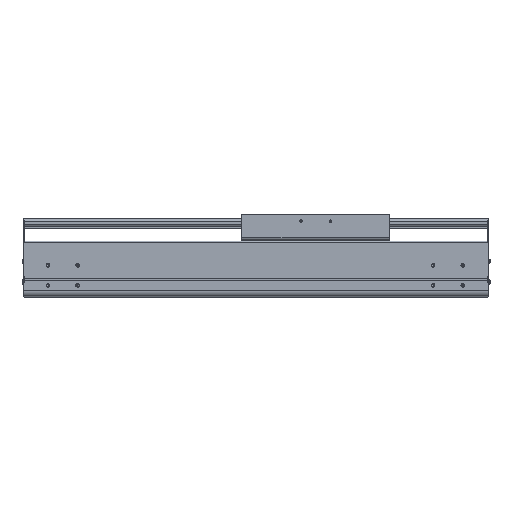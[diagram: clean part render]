
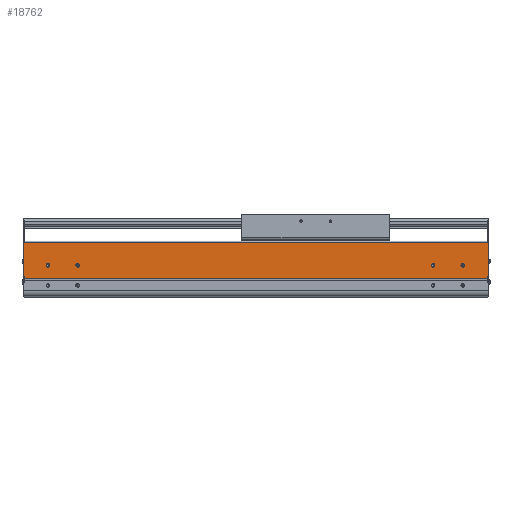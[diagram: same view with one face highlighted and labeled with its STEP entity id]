
A CAD part, top view. The second image highlights one B-rep face of the part: STEP entity #18762.
In plain terms, the highlighted planar face has unit normal (0, 0, 1).
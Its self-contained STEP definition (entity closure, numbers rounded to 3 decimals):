
#4702=DIRECTION('',(-1.,0.,0.));
#4703=VECTOR('',#4702,788.);
#4704=CARTESIAN_POINT('',(2.,93.5,107.));
#4705=LINE('',#4704,#4703);
#4728=CARTESIAN_POINT('',(-42.,54.,107.));
#4729=DIRECTION('',(0.,0.,-1.));
#4730=DIRECTION('',(1.,0.,0.));
#4731=AXIS2_PLACEMENT_3D('',#4728,#4729,#4730);
#4733=CARTESIAN_POINT('',(-42.,54.,107.));
#4734=DIRECTION('',(0.,0.,-1.));
#4735=DIRECTION('',(-1.,0.,0.));
#4736=AXIS2_PLACEMENT_3D('',#4733,#4734,#4735);
#4738=CARTESIAN_POINT('',(-92.,54.,107.));
#4739=DIRECTION('',(0.,0.,-1.));
#4740=DIRECTION('',(1.,0.,0.));
#4741=AXIS2_PLACEMENT_3D('',#4738,#4739,#4740);
#4743=CARTESIAN_POINT('',(-92.,54.,107.));
#4744=DIRECTION('',(0.,0.,-1.));
#4745=DIRECTION('',(-1.,0.,0.));
#4746=AXIS2_PLACEMENT_3D('',#4743,#4744,#4745);
#4748=CARTESIAN_POINT('',(-744.,54.,107.));
#4749=DIRECTION('',(0.,0.,-1.));
#4750=DIRECTION('',(1.,0.,0.));
#4751=AXIS2_PLACEMENT_3D('',#4748,#4749,#4750);
#4753=CARTESIAN_POINT('',(-744.,54.,107.));
#4754=DIRECTION('',(0.,0.,-1.));
#4755=DIRECTION('',(-1.,0.,0.));
#4756=AXIS2_PLACEMENT_3D('',#4753,#4754,#4755);
#4758=CARTESIAN_POINT('',(-694.,54.,107.));
#4759=DIRECTION('',(0.,0.,-1.));
#4760=DIRECTION('',(1.,0.,0.));
#4761=AXIS2_PLACEMENT_3D('',#4758,#4759,#4760);
#4763=CARTESIAN_POINT('',(-694.,54.,107.));
#4764=DIRECTION('',(0.,0.,-1.));
#4765=DIRECTION('',(-1.,0.,0.));
#4766=AXIS2_PLACEMENT_3D('',#4763,#4764,#4765);
#4768=DIRECTION('',(0.,-1.,0.));
#4769=VECTOR('',#4768,2.55);
#4770=CARTESIAN_POINT('',(-784.,34.65,107.));
#4771=LINE('',#4770,#4769);
#4772=DIRECTION('',(0.,-1.,0.));
#4773=VECTOR('',#4772,58.85);
#4774=CARTESIAN_POINT('',(-786.,93.5,107.));
#4775=LINE('',#4774,#4773);
#4776=DIRECTION('',(0.,1.,0.));
#4777=VECTOR('',#4776,58.85);
#4778=CARTESIAN_POINT('',(2.,34.65,107.));
#4779=LINE('',#4778,#4777);
#4780=DIRECTION('',(0.,1.,0.));
#4781=VECTOR('',#4780,2.55);
#4782=CARTESIAN_POINT('',(0.,32.1,107.));
#4783=LINE('',#4782,#4781);
#4892=DIRECTION('',(1.,0.,0.));
#4893=VECTOR('',#4892,2.);
#4894=CARTESIAN_POINT('',(-786.,34.65,107.));
#4895=LINE('',#4894,#4893);
#5004=DIRECTION('',(1.,0.,0.));
#5005=VECTOR('',#5004,784.);
#5006=CARTESIAN_POINT('',(-784.,32.1,107.));
#5007=LINE('',#5006,#5005);
#5020=DIRECTION('',(1.,0.,0.));
#5021=VECTOR('',#5020,2.);
#5022=CARTESIAN_POINT('',(0.,34.65,107.));
#5023=LINE('',#5022,#5021);
#10077=CARTESIAN_POINT('',(-786.,34.65,107.));
#10078=VERTEX_POINT('',#10077);
#10079=CARTESIAN_POINT('',(-786.,93.5,107.));
#10080=VERTEX_POINT('',#10079);
#10309=CARTESIAN_POINT('',(-784.,32.1,107.));
#10310=VERTEX_POINT('',#10309);
#10405=CARTESIAN_POINT('',(0.,32.1,107.));
#10406=VERTEX_POINT('',#10405);
#10701=CARTESIAN_POINT('',(-39.5,54.,107.));
#10702=CARTESIAN_POINT('',(-44.5,54.,107.));
#10703=VERTEX_POINT('',#10701);
#10704=VERTEX_POINT('',#10702);
#10705=CARTESIAN_POINT('',(-89.5,54.,107.));
#10706=CARTESIAN_POINT('',(-94.5,54.,107.));
#10707=VERTEX_POINT('',#10705);
#10708=VERTEX_POINT('',#10706);
#10709=CARTESIAN_POINT('',(-741.5,54.,107.));
#10710=CARTESIAN_POINT('',(-746.5,54.,107.));
#10711=VERTEX_POINT('',#10709);
#10712=VERTEX_POINT('',#10710);
#10713=CARTESIAN_POINT('',(-691.5,54.,107.));
#10714=CARTESIAN_POINT('',(-696.5,54.,107.));
#10715=VERTEX_POINT('',#10713);
#10716=VERTEX_POINT('',#10714);
#11666=CARTESIAN_POINT('',(2.,34.65,107.));
#11667=VERTEX_POINT('',#11666);
#11668=CARTESIAN_POINT('',(2.,93.5,107.));
#11669=VERTEX_POINT('',#11668);
#11890=CARTESIAN_POINT('',(0.,34.65,107.));
#11891=VERTEX_POINT('',#11890);
#12202=CARTESIAN_POINT('',(-784.,34.65,107.));
#12203=VERTEX_POINT('',#12202);
#18720=CARTESIAN_POINT('',(-392.,62.8,107.));
#18721=DIRECTION('',(0.,0.,1.));
#18722=DIRECTION('',(0.,-1.,0.));
#18723=AXIS2_PLACEMENT_3D('',#18720,#18721,#18722);
#18724=PLANE('',#18723);
#18725=ORIENTED_EDGE('',*,*,#13133,.F.);
#18727=ORIENTED_EDGE('',*,*,#18726,.F.);
#18728=ORIENTED_EDGE('',*,*,#13746,.F.);
#18729=ORIENTED_EDGE('',*,*,#18706,.F.);
#18730=ORIENTED_EDGE('',*,*,#12870,.F.);
#18732=ORIENTED_EDGE('',*,*,#18731,.F.);
#18733=ORIENTED_EDGE('',*,*,#14430,.F.);
#18735=ORIENTED_EDGE('',*,*,#18734,.F.);
#18736=EDGE_LOOP('',(#18725,#18727,#18728,#18729,#18730,#18732,#18733,#18735));
#18737=FACE_OUTER_BOUND('',#18736,.F.);
#18739=ORIENTED_EDGE('',*,*,#18738,.F.);
#18741=ORIENTED_EDGE('',*,*,#18740,.F.);
#18742=EDGE_LOOP('',(#18739,#18741));
#18743=FACE_BOUND('',#18742,.F.);
#18745=ORIENTED_EDGE('',*,*,#18744,.F.);
#18747=ORIENTED_EDGE('',*,*,#18746,.F.);
#18748=EDGE_LOOP('',(#18745,#18747));
#18749=FACE_BOUND('',#18748,.F.);
#18751=ORIENTED_EDGE('',*,*,#18750,.F.);
#18753=ORIENTED_EDGE('',*,*,#18752,.F.);
#18754=EDGE_LOOP('',(#18751,#18753));
#18755=FACE_BOUND('',#18754,.F.);
#18757=ORIENTED_EDGE('',*,*,#18756,.F.);
#18759=ORIENTED_EDGE('',*,*,#18758,.F.);
#18760=EDGE_LOOP('',(#18757,#18759));
#18761=FACE_BOUND('',#18760,.F.);
#18762=ADVANCED_FACE('',(#18737,#18743,#18749,#18755,#18761),#18724,.T.);
#4732=CIRCLE('',#4731,2.5);
#4737=CIRCLE('',#4736,2.5);
#4742=CIRCLE('',#4741,2.5);
#4747=CIRCLE('',#4746,2.5);
#4752=CIRCLE('',#4751,2.5);
#4757=CIRCLE('',#4756,2.5);
#4762=CIRCLE('',#4761,2.5);
#4767=CIRCLE('',#4766,2.5);
#12870=EDGE_CURVE('',#11667,#11669,#4779,.T.);
#13133=EDGE_CURVE('',#12203,#10310,#4771,.T.);
#13746=EDGE_CURVE('',#10080,#10078,#4775,.T.);
#14430=EDGE_CURVE('',#10406,#11891,#4783,.T.);
#18706=EDGE_CURVE('',#11669,#10080,#4705,.T.);
#18726=EDGE_CURVE('',#10078,#12203,#4895,.T.);
#18731=EDGE_CURVE('',#11891,#11667,#5023,.T.);
#18734=EDGE_CURVE('',#10310,#10406,#5007,.T.);
#18738=EDGE_CURVE('',#10707,#10708,#4742,.T.);
#18740=EDGE_CURVE('',#10708,#10707,#4747,.T.);
#18744=EDGE_CURVE('',#10711,#10712,#4752,.T.);
#18746=EDGE_CURVE('',#10712,#10711,#4757,.T.);
#18750=EDGE_CURVE('',#10715,#10716,#4762,.T.);
#18752=EDGE_CURVE('',#10716,#10715,#4767,.T.);
#18756=EDGE_CURVE('',#10703,#10704,#4732,.T.);
#18758=EDGE_CURVE('',#10704,#10703,#4737,.T.);
